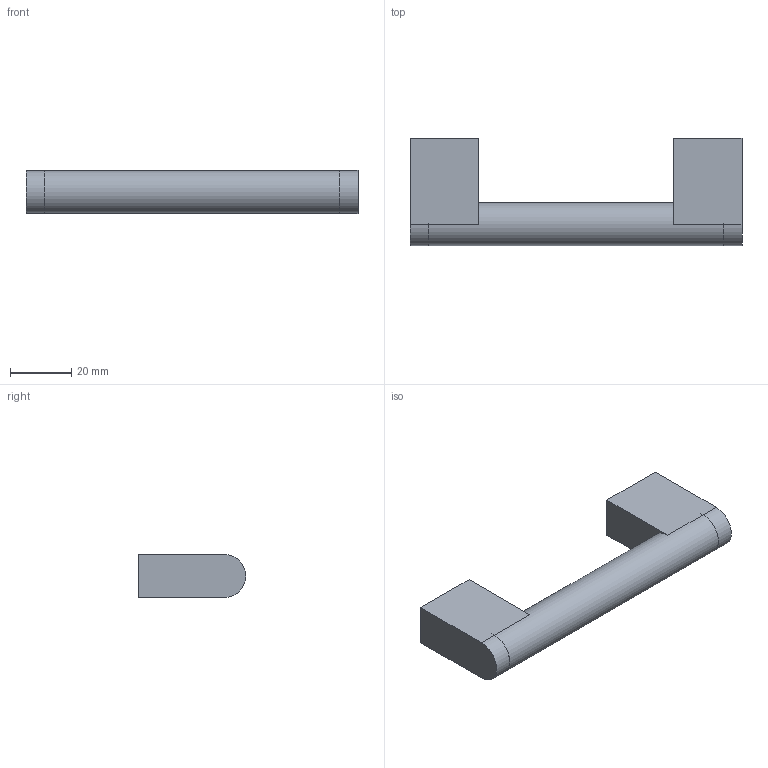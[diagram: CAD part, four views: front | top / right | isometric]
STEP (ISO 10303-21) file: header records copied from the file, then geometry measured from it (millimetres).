
FILE_DESCRIPTION( ( 'STEP AP214' ), ' ' );
FILE_NAME( 'C:/Users/bhog/Desktop/Handle/9118858/9118858.stp', '2018-11-20T10:23:03', ( '' ), ( '' ), ' ', 'PARTsolutions', ' ' );
FILE_SCHEMA( ( 'AUTOMOTIVE_DESIGN { 1 0 10303 214 1 1 1 1 }' ) );
Length unit declared in the file: millimetre
Products named in the file (1): _9118858
Bounding box: 108 x 35 x 14 mm (x, y, z)
Volume: 30382.2 mm3; surface area: 10139.3 mm2
Topology: 1 solids, 1 shells, 21 faces, 41 edges, 26 vertices
Faces by surface type: plane 14, cylinder 7
Full cylindrical faces by diameter (mm): 4 x2, 13.98 x1
Entity records: 706 total; most frequent: DIRECTION 96, CARTESIAN_POINT 86, ORIENTED_EDGE 76, EDGE_CURVE 38, AXIS2_PLACEMENT_3D 36, EDGE_LOOP 28, VERTEX_POINT 26, FACE_OUTER_BOUND 24
